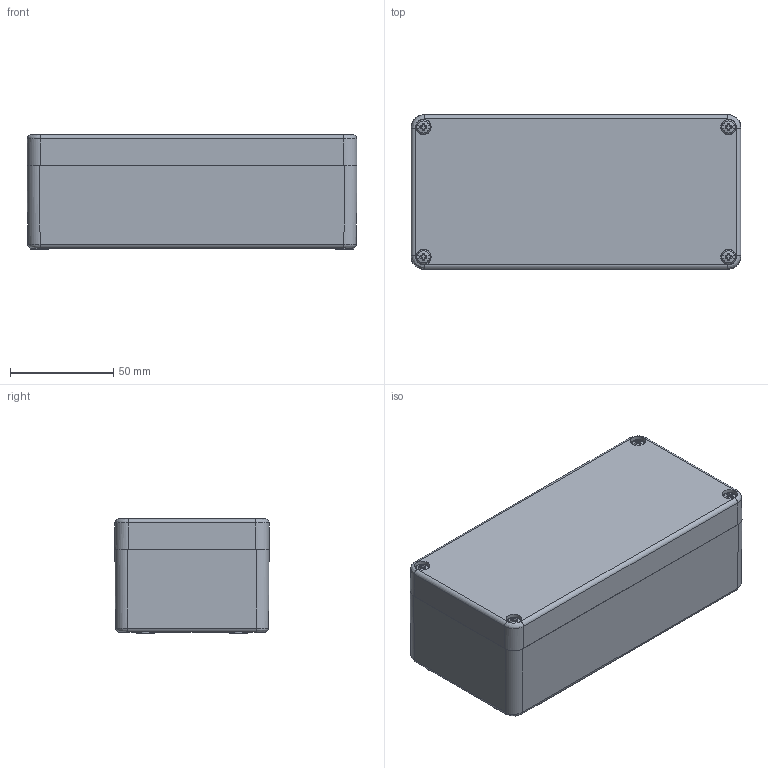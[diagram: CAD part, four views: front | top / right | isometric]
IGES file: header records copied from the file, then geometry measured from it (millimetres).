
Global section: file name: 1590ZGRP083.iam; native system: Autodesk Inventor 2016; preprocessor: unknown; author: kbond; date: 20160202.082016; units: millimetre
Bounding box: 160 x 75 x 55.5 mm (x, y, z)
Volume: 214346.7 mm3; surface area: 124448.3 mm2
Topology: 8 solids, 8 shells, 428 faces, 1132 edges, 744 vertices
Faces by surface type: plane 220, revolution 124, cylinder 40, cone 28, bspline 8, sphere 8
Full cylindrical faces by diameter (mm): 3.2 x8, 3.48 x4, 3.85 x4, 6.9 x4, 9 x4
